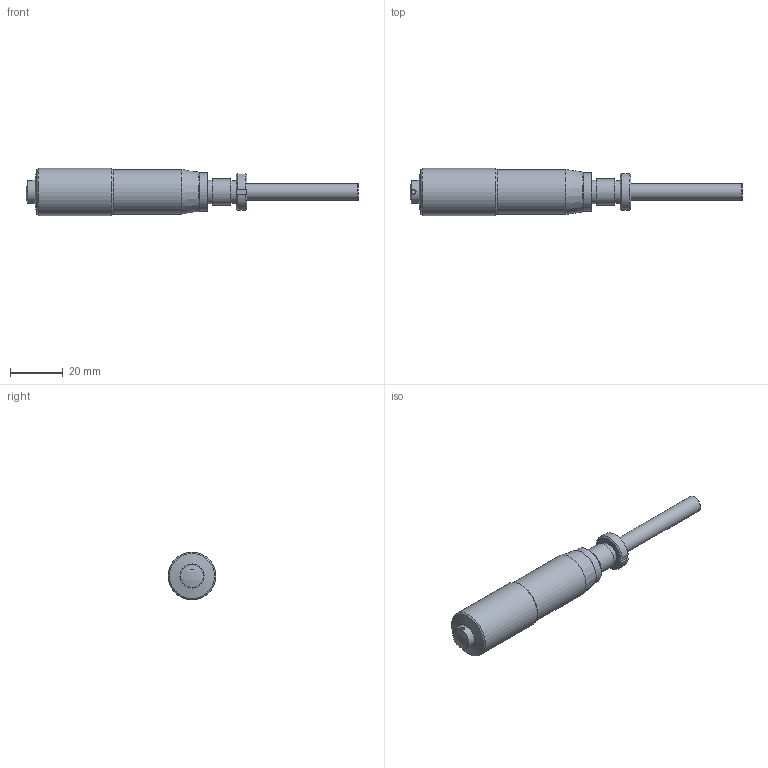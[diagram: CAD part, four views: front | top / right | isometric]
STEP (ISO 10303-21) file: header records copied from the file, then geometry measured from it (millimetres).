
FILE_DESCRIPTION((''),'2;1');
FILE_NAME('T:\Public\7_3次元データ\1図面ﾃﾞｰﾀ\2_OpticalHard\01_国内製品\5_Actuators\SHN2-40\SHN2-40.stp','2009-08-10T17:27:04',('okegawa'),(''),'Autodesk Inventor 2008','Autodesk Inventor 2008','');
FILE_SCHEMA(('AUTOMOTIVE_DESIGN { 1 0 10303 214 1 1 1 1 }'));
Length unit declared in the file: millimetre
Products named in the file (4): SHN2-40-C1-S03; SHN2-40-C1-S02; SHN2-40-C1-S01; MMN14-4
Assembly tree (3 placements, depth 2):
  SHN2-40-C1-S03
    SHN2-40-C1-S02
    SHN2-40-C1-S01
    MMN14-4
Bounding box: 125.43 x 18 x 18 mm (x, y, z)
Volume: 22920.3 mm3; surface area: 11307.4 mm2
Topology: 3 solids, 4 shells, 65 faces, 124 edges, 79 vertices
Faces by surface type: plane 24, cylinder 19, cone 18, bspline 3, sphere 1
Full cylindrical faces by diameter (mm): 6 x1, 6.35 x2, 7 x1, 7.3 x1, 7.5 x1, 8.5 x1, 8.7 x1, 9 x1, 9.5 x1, 9.9 x1, 10 x1, 12 x2, 14.4 x1, 17 x1, 18 x1
Entity records: 1634 total; most frequent: CARTESIAN_POINT 331, DIRECTION 274, ORIENTED_EDGE 176, AXIS2_PLACEMENT_3D 127, EDGE_LOOP 116, EDGE_CURVE 88, VERTEX_POINT 76, FACE_OUTER_BOUND 65
